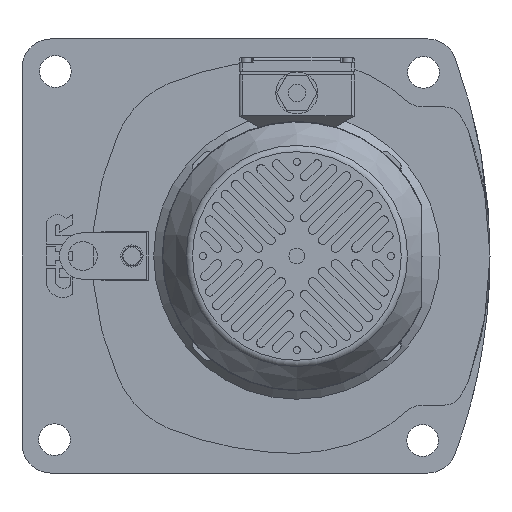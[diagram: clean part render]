
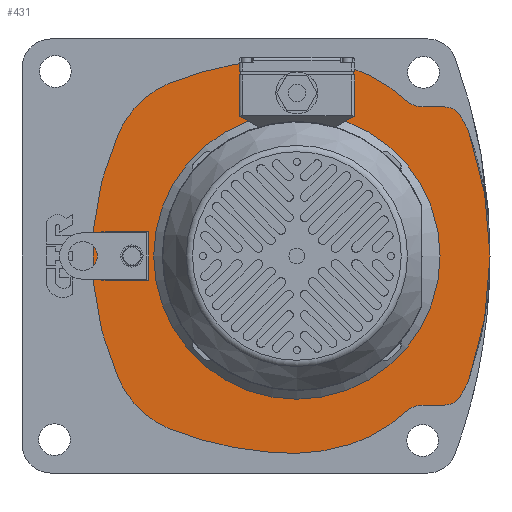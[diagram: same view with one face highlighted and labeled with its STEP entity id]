
A CAD part, left-side view. The second image highlights one B-rep face of the part: STEP entity #431.
In plain terms, the highlighted planar face has unit normal (-1, 0, 0).
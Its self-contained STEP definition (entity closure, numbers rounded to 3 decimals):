
#431 = ADVANCED_FACE( '', ( #1334 ), #1335, .F. );
#1334 = FACE_OUTER_BOUND( '', #3050, .T. );
#1335 = PLANE( '', #3051 );
#3050 = EDGE_LOOP( '', ( #5211, #5212, #5213, #5214, #5215, #5216, #5217, #5218, #5219, #5220, #5221, #5222, #5223, #5224, #5225, #5226, #5227, #5228 ) );
#3051 = AXIS2_PLACEMENT_3D( '', #5229, #5230, #5231 );
#5211 = ORIENTED_EDGE( '', *, *, #11512, .F. );
#5212 = ORIENTED_EDGE( '', *, *, #11541, .F. );
#5213 = ORIENTED_EDGE( '', *, *, #11539, .F. );
#5214 = ORIENTED_EDGE( '', *, *, #11536, .F. );
#5215 = ORIENTED_EDGE( '', *, *, #11533, .F. );
#5216 = ORIENTED_EDGE( '', *, *, #11530, .F. );
#5217 = ORIENTED_EDGE( '', *, *, #11527, .F. );
#5218 = ORIENTED_EDGE( '', *, *, #11523, .T. );
#5219 = ORIENTED_EDGE( '', *, *, #11521, .F. );
#5220 = ORIENTED_EDGE( '', *, *, #11518, .F. );
#5221 = ORIENTED_EDGE( '', *, *, #11515, .F. );
#5222 = ORIENTED_EDGE( '', *, *, #11494, .F. );
#5223 = ORIENTED_EDGE( '', *, *, #11490, .F. );
#5224 = ORIENTED_EDGE( '', *, *, #11497, .F. );
#5225 = ORIENTED_EDGE( '', *, *, #11500, .F. );
#5226 = ORIENTED_EDGE( '', *, *, #11503, .T. );
#5227 = ORIENTED_EDGE( '', *, *, #11506, .F. );
#5228 = ORIENTED_EDGE( '', *, *, #11509, .F. );
#5229 = CARTESIAN_POINT( '', ( -154., -41., -105. ) );
#5230 = DIRECTION( '', ( 1., 0., 0. ) );
#5231 = DIRECTION( '', ( 0., 0., -1. ) );
#11490 = EDGE_CURVE( '', #13758, #13753, #13760, .T. );
#11494 = EDGE_CURVE( '', #13753, #13761, #13766, .T. );
#11497 = EDGE_CURVE( '', #13769, #13758, #13771, .T. );
#11500 = EDGE_CURVE( '', #13774, #13769, #13776, .T. );
#11503 = EDGE_CURVE( '', #13774, #13779, #13781, .T. );
#11506 = EDGE_CURVE( '', #13784, #13779, #13786, .T. );
#11509 = EDGE_CURVE( '', #13789, #13784, #13791, .T. );
#11512 = EDGE_CURVE( '', #13794, #13789, #13796, .T. );
#11515 = EDGE_CURVE( '', #13761, #13797, #13801, .T. );
#11518 = EDGE_CURVE( '', #13797, #13802, #13806, .T. );
#11521 = EDGE_CURVE( '', #13802, #13807, #13811, .T. );
#11523 = EDGE_CURVE( '', #13814, #13807, #13815, .T. );
#11527 = EDGE_CURVE( '', #13814, #13817, #13821, .T. );
#11530 = EDGE_CURVE( '', #13817, #13822, #13826, .T. );
#11533 = EDGE_CURVE( '', #13822, #13827, #13831, .T. );
#11536 = EDGE_CURVE( '', #13827, #13832, #13836, .T. );
#11539 = EDGE_CURVE( '', #13832, #13837, #13841, .T. );
#11541 = EDGE_CURVE( '', #13837, #13794, #13843, .T. );
#13753 = VERTEX_POINT( '', #17473 );
#13758 = VERTEX_POINT( '', #17479 );
#13760 = CIRCLE( '', #17482, 66.5 );
#13761 = VERTEX_POINT( '', #17483 );
#13766 = CIRCLE( '', #17489, 256.5 );
#13769 = VERTEX_POINT( '', #17492 );
#13771 = CIRCLE( '', #17495, 13. );
#13774 = VERTEX_POINT( '', #17499 );
#13776 = LINE( '', #17502, #17503 );
#13779 = VERTEX_POINT( '', #17506 );
#13781 = CIRCLE( '', #17509, 18. );
#13784 = VERTEX_POINT( '', #17512 );
#13786 = CIRCLE( '', #17515, 100. );
#13789 = VERTEX_POINT( '', #17518 );
#13791 = CIRCLE( '', #17521, 136.5 );
#13794 = VERTEX_POINT( '', #17524 );
#13796 = CIRCLE( '', #17527, 241.5 );
#13797 = VERTEX_POINT( '', #17528 );
#13801 = CIRCLE( '', #17533, 66.5 );
#13802 = VERTEX_POINT( '', #17534 );
#13806 = CIRCLE( '', #17539, 13. );
#13807 = VERTEX_POINT( '', #17540 );
#13811 = LINE( '', #17546, #17547 );
#13814 = VERTEX_POINT( '', #17550 );
#13815 = CIRCLE( '', #17551, 18. );
#13817 = VERTEX_POINT( '', #17554 );
#13821 = CIRCLE( '', #17559, 100. );
#13822 = VERTEX_POINT( '', #17560 );
#13826 = CIRCLE( '', #17565, 136.5 );
#13827 = VERTEX_POINT( '', #17566 );
#13831 = CIRCLE( '', #17571, 241.5 );
#13832 = VERTEX_POINT( '', #17572 );
#13836 = CIRCLE( '', #17577, 66.5 );
#13837 = VERTEX_POINT( '', #17578 );
#13841 = CIRCLE( '', #17583, 206.5 );
#13843 = CIRCLE( '', #17585, 66.5 );
#17473 = CARTESIAN_POINT( '', ( -154., -158.728, 85.79 ) );
#17479 = CARTESIAN_POINT( '', ( -154., -152.377, 97.764 ) );
#17482 = AXIS2_PLACEMENT_3D( '', #22531, #22532, #22533 );
#17483 = CARTESIAN_POINT( '', ( -154., -158.728, -85.79 ) );
#17489 = AXIS2_PLACEMENT_3D( '', #22541, #22542, #22543 );
#17492 = CARTESIAN_POINT( '', ( -154., -141.95, 103. ) );
#17495 = AXIS2_PLACEMENT_3D( '', #22548, #22549, #22550 );
#17499 = CARTESIAN_POINT( '', ( -154., -127.28, 103. ) );
#17502 = CARTESIAN_POINT( '', ( -154., -127.28, 103. ) );
#17503 = VECTOR( '', #22553, 1000. );
#17506 = CARTESIAN_POINT( '', ( -154., -115.141, 107.71 ) );
#17509 = AXIS2_PLACEMENT_3D( '', #22558, #22559, #22560 );
#17512 = CARTESIAN_POINT( '', ( -154., -77.205, 130.132 ) );
#17515 = AXIS2_PLACEMENT_3D( '', #22565, #22566, #22567 );
#17518 = CARTESIAN_POINT( '', ( -154., -20.895, 135.662 ) );
#17521 = AXIS2_PLACEMENT_3D( '', #22572, #22573, #22574 );
#17524 = CARTESIAN_POINT( '', ( -154., 48.261, 119.399 ) );
#17527 = AXIS2_PLACEMENT_3D( '', #22579, #22580, #22581 );
#17528 = CARTESIAN_POINT( '', ( -154., -152.377, -97.764 ) );
#17533 = AXIS2_PLACEMENT_3D( '', #22586, #22587, #22588 );
#17534 = CARTESIAN_POINT( '', ( -154., -141.95, -103. ) );
#17539 = AXIS2_PLACEMENT_3D( '', #22593, #22594, #22595 );
#17540 = CARTESIAN_POINT( '', ( -154., -127.28, -103. ) );
#17546 = CARTESIAN_POINT( '', ( -154., -141.95, -103. ) );
#17547 = VECTOR( '', #22598, 1000. );
#17550 = CARTESIAN_POINT( '', ( -154., -115.141, -107.71 ) );
#17551 = AXIS2_PLACEMENT_3D( '', #22602, #22603, #22604 );
#17554 = CARTESIAN_POINT( '', ( -154., -77.205, -130.132 ) );
#17559 = AXIS2_PLACEMENT_3D( '', #22610, #22611, #22612 );
#17560 = CARTESIAN_POINT( '', ( -154., -20.895, -135.662 ) );
#17565 = AXIS2_PLACEMENT_3D( '', #22617, #22618, #22619 );
#17566 = CARTESIAN_POINT( '', ( -154., 48.261, -119.399 ) );
#17571 = AXIS2_PLACEMENT_3D( '', #22624, #22625, #22626 );
#17572 = CARTESIAN_POINT( '', ( -154., 83.334, -84.691 ) );
#17577 = AXIS2_PLACEMENT_3D( '', #22631, #22632, #22633 );
#17578 = CARTESIAN_POINT( '', ( -154., 83.334, 84.691 ) );
#17583 = AXIS2_PLACEMENT_3D( '', #22638, #22639, #22640 );
#17585 = AXIS2_PLACEMENT_3D( '', #22644, #22645, #22646 );
#22531 = CARTESIAN_POINT( '', ( -154., -97.11, 60.78 ) );
#22532 = DIRECTION( '', ( 1., 0., 0. ) );
#22533 = DIRECTION( '', ( 0., 0., -1. ) );
#22541 = CARTESIAN_POINT( '', ( -154., 83., 0. ) );
#22542 = DIRECTION( '', ( 1., 0., 0. ) );
#22543 = DIRECTION( '', ( 0., 0., -1. ) );
#22548 = CARTESIAN_POINT( '', ( -154., -141.95, 90. ) );
#22549 = DIRECTION( '', ( 1., 0., 0. ) );
#22550 = DIRECTION( '', ( 0., 0., -1. ) );
#22553 = DIRECTION( '', ( 0., -1., 0. ) );
#22558 = CARTESIAN_POINT( '', ( -154., -127.28, 121. ) );
#22559 = DIRECTION( '', ( 1., 0., 0. ) );
#22560 = DIRECTION( '', ( 0., 0., -1. ) );
#22565 = CARTESIAN_POINT( '', ( -154., -46.54, 34.95 ) );
#22566 = DIRECTION( '', ( 1., 0., 0. ) );
#22567 = DIRECTION( '', ( 0., 0., -1. ) );
#22572 = CARTESIAN_POINT( '', ( -154., -36., 0. ) );
#22573 = DIRECTION( '', ( 1., 0., 0. ) );
#22574 = DIRECTION( '', ( 0., 0., -1. ) );
#22579 = CARTESIAN_POINT( '', ( -154., -41., -105. ) );
#22580 = DIRECTION( '', ( 1., 0., 0. ) );
#22581 = DIRECTION( '', ( 0., 0., -1. ) );
#22586 = CARTESIAN_POINT( '', ( -154., -97.11, -60.78 ) );
#22587 = DIRECTION( '', ( 1., 0., 0. ) );
#22588 = DIRECTION( '', ( 0., 0., -1. ) );
#22593 = CARTESIAN_POINT( '', ( -154., -141.95, -90. ) );
#22594 = DIRECTION( '', ( 1., 0., 0. ) );
#22595 = DIRECTION( '', ( 0., 0., -1. ) );
#22598 = DIRECTION( '', ( 0., 1., 0. ) );
#22602 = CARTESIAN_POINT( '', ( -154., -127.28, -121. ) );
#22603 = DIRECTION( '', ( 1., 0., 0. ) );
#22604 = DIRECTION( '', ( 0., 0., -1. ) );
#22610 = CARTESIAN_POINT( '', ( -154., -46.54, -34.95 ) );
#22611 = DIRECTION( '', ( 1., 0., 0. ) );
#22612 = DIRECTION( '', ( 0., 0., -1. ) );
#22617 = CARTESIAN_POINT( '', ( -154., -36., 0. ) );
#22618 = DIRECTION( '', ( 1., 0., 0. ) );
#22619 = DIRECTION( '', ( 0., 0., -1. ) );
#22624 = CARTESIAN_POINT( '', ( -154., -41., 105. ) );
#22625 = DIRECTION( '', ( 1., 0., 0. ) );
#22626 = DIRECTION( '', ( 0., 0., -1. ) );
#22631 = CARTESIAN_POINT( '', ( -154., 22.36, -58.15 ) );
#22632 = DIRECTION( '', ( 1., 0., 0. ) );
#22633 = DIRECTION( '', ( 0., 0., -1. ) );
#22638 = CARTESIAN_POINT( '', ( -154., -105., 0. ) );
#22639 = DIRECTION( '', ( 1., 0., 0. ) );
#22640 = DIRECTION( '', ( 0., 0., -1. ) );
#22644 = CARTESIAN_POINT( '', ( -154., 22.36, 58.15 ) );
#22645 = DIRECTION( '', ( 1., 0., 0. ) );
#22646 = DIRECTION( '', ( 0., 0., -1. ) );
